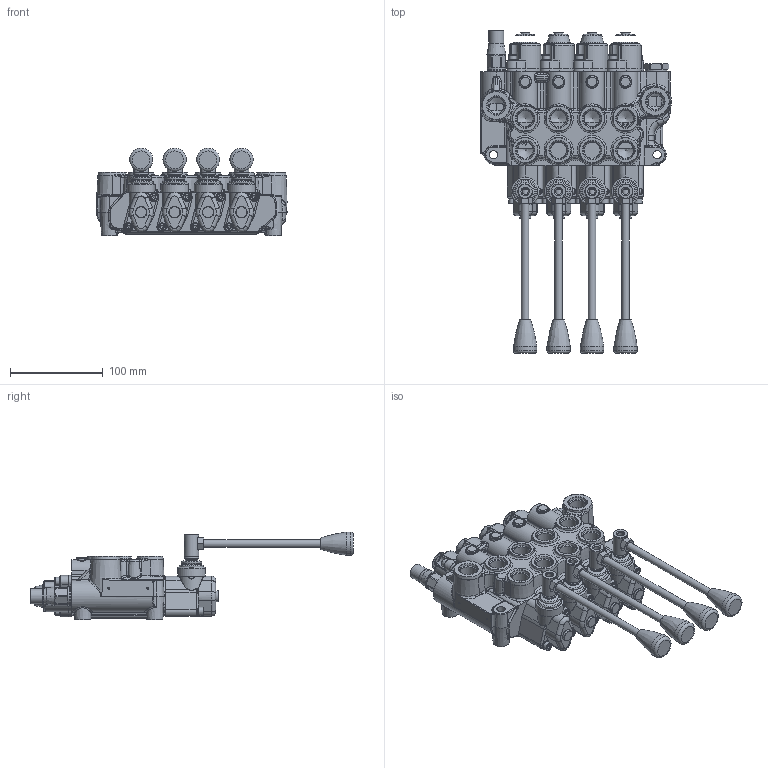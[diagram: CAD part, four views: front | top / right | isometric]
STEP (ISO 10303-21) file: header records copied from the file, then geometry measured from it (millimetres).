
FILE_DESCRIPTION(/* description */ ('FOUR SPOOL VALVE ASSY'),/* implementation_level */ '2;1');
FILE_NAME(/* name */ 'Q:\WVS41BBBB5C1.stp',/* time_stamp */ '2020-01-13T09:20:17-06:00',/* author */ ('PetersW'),/* organization */ ('PRINCE MFG CORP'),/* preprocessor_version */ 'ST-DEVELOPER v18',/* originating_system */ 'Autodesk Inventor 2020',/* authorisation */ '');
FILE_SCHEMA (('AUTOMOTIVE_DESIGN { 1 0 10303 214 3 1 1 }'));
Products named in the file (1): WVS41BBBB5C1
Bounding box: 205.43 x 347.5 x 94.5 mm (x, y, z)
Surface area: 206204.1 mm2 (no closed solid volume)
Topology: 0 solids, 111 shells, 2114 faces, 5862 edges, 3734 vertices
Faces by surface type: plane 576, bspline 497, cylinder 426, torus 309, cone 259, sphere 47
Full cylindrical faces by diameter (mm): 2 x2, 4 x1, 6 x12, 6.647 x9, 8 x8, 8.5 x16, 9 x3, 9.5 x16, 10 x4, 11.8 x1, 12 x5, 12.5 x4, 16 x5, 16.166 x1, 17.33 x10, 19.6 x1, 20 x2, 20.6 x1, 22 x1, 23 x1, 25 x4, 26 x5, 28 x1, 30 x4
Entity records: 104545 total; most frequent: CARTESIAN_POINT 51462, DIRECTION 10721, ORIENTED_EDGE 10366, EDGE_CURVE 5773, AXIS2_PLACEMENT_3D 4630, VERTEX_POINT 3734, CIRCLE 2763, EDGE_LOOP 2317
